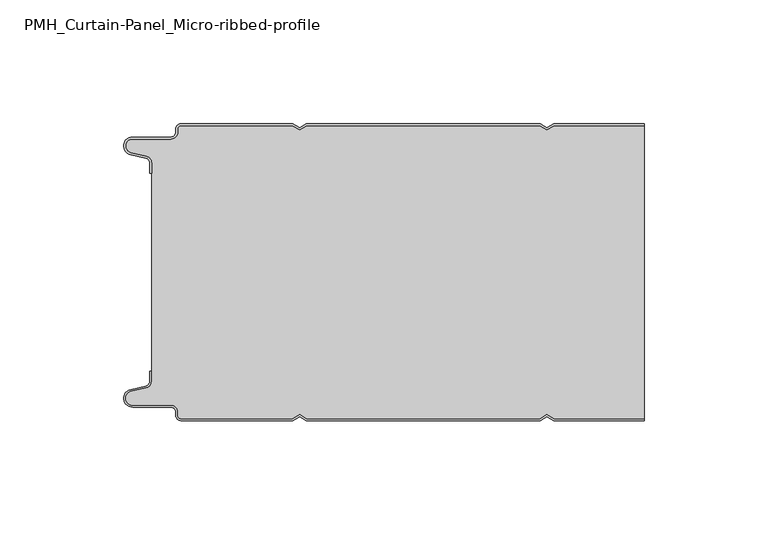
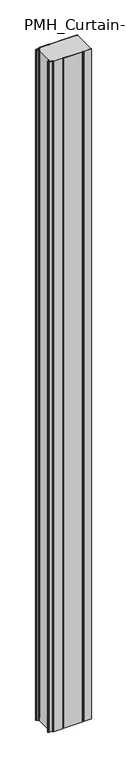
"""IFC4 building model written with IfcOpenShell, lengths in millimetres: plate geometry, PMH_Curtain-Panel_Micro-ribbed-profile : ACH_PMH_Stone-wool-Panel_120M."""

from ifc_helpers import new_model, si_unit, point, frame_2d, origin, origin_with_axes, place, context, project, spatial, polyline, circle_curve, trimmed, segment, composite_curve, outline, extrude, source, transform, mapped, element, save


def pmh_curtain_panel_micro_ribbed_profile_7fa3ddbd(model_context):
    return source(origin(), model_context, "Body", "SweptSolid", [
        extrude(outline(composite_curve([segment(trimmed(circle_curve(frame_2d((-102.0, -15.878557)), 2.0), [point((-100.0, -15.878557))], [point((-101.5500978, -13.9298169))], True, "CARTESIAN"), True, "CONTINUOUS"), segment(polyline([(-101.5500978, -13.9298169), (-107.7098239, -12.507732)]), True, "CONTINUOUS"), segment(trimmed(circle_curve(frame_2d((-106.9, -9.0)), 3.6), [point((-107.7098239, -12.507732))], [point((-106.9, -5.4))], False, "CARTESIAN"), True, "CONTINUOUS"), segment(polyline([(-106.9, -5.4), (-91.4, -5.4)]), True, "CONTINUOUS"), segment(trimmed(circle_curve(frame_2d((-91.4, -3.4)), 2.0), [point((-91.4, -5.4))], [point((-89.4, -3.4))], True, "CARTESIAN"), True, "CONTINUOUS"), segment(polyline([(-89.4, -3.4), (-89.4, -2.0)]), True, "CONTINUOUS"), segment(trimmed(circle_curve(frame_2d((-87.4, -2.0)), 2.0), [point((-89.4, -2.0))], [point((-87.4, 0.0))], False, "CARTESIAN"), True, "CONTINUOUS"), segment(polyline([(-87.4, 0.0), (-42.0999995, 0.0), (-39.4, -1.5588455), (-36.7000005, 0.0), (57.9000005, 0.0), (60.6, -1.5588455), (63.2999995, 0.0), (100.0, 0.0), (100.0, -0.8), (63.5143588, -0.8), (60.6, -2.482606), (57.6856412, -0.8), (-36.4856412, -0.8), (-39.4, -2.482606), (-42.3143588, -0.8), (-87.4, -0.8)]), True, "CONTINUOUS"), segment(trimmed(circle_curve(frame_2d((-87.4, -2.0)), 1.2), [point((-87.4, -0.8))], [point((-88.6, -2.0))], True, "CARTESIAN"), True, "CONTINUOUS"), segment(polyline([(-88.6, -2.0), (-88.6, -3.4)]), True, "CONTINUOUS"), segment(trimmed(circle_curve(frame_2d((-91.4, -3.4)), 2.8), [point((-88.6, -3.4))], [point((-91.4, -6.2))], False, "CARTESIAN"), True, "CONTINUOUS"), segment(polyline([(-91.4, -6.2), (-106.9, -6.2)]), True, "CONTINUOUS"), segment(trimmed(circle_curve(frame_2d((-106.9, -9.0)), 2.8), [point((-106.9, -6.2))], [point((-107.529863, -11.7282362))], True, "CARTESIAN"), True, "CONTINUOUS"), segment(polyline([(-107.529863, -11.7282362), (-101.370137, -13.150321)]), True, "CONTINUOUS"), segment(trimmed(circle_curve(frame_2d((-102.0, -15.878557)), 2.8), [point((-101.370137, -13.150321))], [point((-99.2, -15.878557))], False, "CARTESIAN"), True, "CONTINUOUS"), segment(polyline([(-99.2, -15.878557), (-99.2, -20.0), (-100.0, -20.0), (-100.0, -15.878557)]), True, "CONTINUOUS")], self_intersect=False)), origin_with_axes(), (0.0, 0.0, 1.0), 3500.0),
        extrude(outline(composite_curve([segment(polyline([(-99.2, -104.1214426), (-99.2, -15.8785573)]), True, "CONTINUOUS"), segment(trimmed(circle_curve(frame_2d((-102.0, -15.8785573)), 2.8), [point((-99.2, -15.8785573))], [point((-101.370137, -13.1503212))], True, "CARTESIAN"), True, "CONTINUOUS"), segment(polyline([(-101.370137, -13.1503212), (-107.5298631, -11.7282362)]), True, "CONTINUOUS"), segment(trimmed(circle_curve(frame_2d((-106.9, -9.0)), 2.8), [point((-107.5298631, -11.7282362))], [point((-106.9, -6.2))], False, "CARTESIAN"), True, "CONTINUOUS"), segment(polyline([(-106.9, -6.2), (-91.4000001, -6.2)]), True, "CONTINUOUS"), segment(trimmed(circle_curve(frame_2d((-91.4000001, -3.4)), 2.8), [point((-91.4000001, -6.2))], [point((-88.6000001, -3.4))], True, "CARTESIAN"), True, "CONTINUOUS"), segment(polyline([(-88.6000001, -3.4), (-88.6000001, -2.0)]), True, "CONTINUOUS"), segment(trimmed(circle_curve(frame_2d((-87.4000001, -2.0)), 1.2), [point((-88.6000001, -2.0))], [point((-87.4000001, -0.8))], False, "CARTESIAN"), True, "CONTINUOUS"), segment(polyline([(-87.4000001, -0.8), (-42.3143589, -0.8), (-39.4000001, -2.482606), (-36.4856412, -0.8), (57.6856411, -0.8), (60.5999999, -2.482606), (63.5143588, -0.8), (100.0, -0.8), (100.0, -119.2), (63.5143588, -119.2), (60.5999999, -117.517394), (57.6856411, -119.2), (-36.4856412, -119.2), (-39.4000001, -117.517394), (-42.3143589, -119.2), (-87.4000001, -119.2)]), True, "CONTINUOUS"), segment(trimmed(circle_curve(frame_2d((-87.4000001, -118.0)), 1.2), [point((-87.4000001, -119.2))], [point((-88.6000001, -118.0))], False, "CARTESIAN"), True, "CONTINUOUS"), segment(polyline([(-88.6000001, -118.0), (-88.6000001, -116.6)]), True, "CONTINUOUS"), segment(trimmed(circle_curve(frame_2d((-91.4000001, -116.6)), 2.8), [point((-88.6000001, -116.6))], [point((-91.4000001, -113.8))], True, "CARTESIAN"), True, "CONTINUOUS"), segment(polyline([(-91.4000001, -113.8), (-106.9, -113.8)]), True, "CONTINUOUS"), segment(trimmed(circle_curve(frame_2d((-106.9, -111.0)), 2.8), [point((-106.9, -113.8))], [point((-107.5298631, -108.2717638))], False, "CARTESIAN"), True, "CONTINUOUS"), segment(polyline([(-107.5298631, -108.2717638), (-101.370137, -106.8496788)]), True, "CONTINUOUS"), segment(trimmed(circle_curve(frame_2d((-102.0, -104.1214426)), 2.8), [point((-101.370137, -106.8496788))], [point((-99.2, -104.1214426))], True, "CARTESIAN"), True, "CONTINUOUS")], self_intersect=False)), origin_with_axes(), (0.0, 0.0, 1.0), 3500.0),
        extrude(outline(composite_curve([segment(polyline([(-100.0, -104.121443), (-100.0, -100.0), (-99.2, -100.0), (-99.2, -104.121443)]), True, "CONTINUOUS"), segment(trimmed(circle_curve(frame_2d((-102.0, -104.121443)), 2.8), [point((-99.2, -104.121443))], [point((-101.370137, -106.8496792))], False, "CARTESIAN"), True, "CONTINUOUS"), segment(polyline([(-101.370137, -106.8496792), (-107.529863, -108.271764)]), True, "CONTINUOUS"), segment(trimmed(circle_curve(frame_2d((-106.9, -111.0)), 2.8), [point((-107.529863, -108.271764))], [point((-106.9, -113.8))], True, "CARTESIAN"), True, "CONTINUOUS"), segment(polyline([(-106.9, -113.8), (-91.4, -113.8)]), True, "CONTINUOUS"), segment(trimmed(circle_curve(frame_2d((-91.4, -116.6)), 2.8), [point((-91.4, -113.8))], [point((-88.6, -116.6))], False, "CARTESIAN"), True, "CONTINUOUS"), segment(polyline([(-88.6, -116.6), (-88.6, -118.0)]), True, "CONTINUOUS"), segment(trimmed(circle_curve(frame_2d((-87.4, -118.0)), 1.2), [point((-88.6, -118.0))], [point((-87.4, -119.2))], True, "CARTESIAN"), True, "CONTINUOUS"), segment(polyline([(-87.4, -119.2), (-42.3143588, -119.2), (-39.4, -117.517394), (-36.4856412, -119.2), (57.6856412, -119.2), (60.6, -117.517394), (63.5143588, -119.2), (100.0, -119.2), (100.0, -120.0), (63.2999995, -120.0), (60.6, -118.4411545), (57.9000005, -120.0), (-36.7000005, -120.0), (-39.4, -118.4411545), (-42.0999995, -120.0), (-87.4, -120.0)]), True, "CONTINUOUS"), segment(trimmed(circle_curve(frame_2d((-87.4, -118.0)), 2.0), [point((-87.4, -120.0))], [point((-89.4, -118.0))], False, "CARTESIAN"), True, "CONTINUOUS"), segment(polyline([(-89.4, -118.0), (-89.4, -116.6)]), True, "CONTINUOUS"), segment(trimmed(circle_curve(frame_2d((-91.4, -116.6)), 2.0), [point((-89.4, -116.6))], [point((-91.4, -114.6))], True, "CARTESIAN"), True, "CONTINUOUS"), segment(polyline([(-91.4, -114.6), (-106.9, -114.6)]), True, "CONTINUOUS"), segment(trimmed(circle_curve(frame_2d((-106.9, -111.0)), 3.6), [point((-106.9, -114.6))], [point((-107.7098239, -107.4922678))], False, "CARTESIAN"), True, "CONTINUOUS"), segment(polyline([(-107.7098239, -107.4922678), (-101.5500979, -106.070183)]), True, "CONTINUOUS"), segment(trimmed(circle_curve(frame_2d((-102.0, -104.121443)), 2.0), [point((-101.5500979, -106.070183))], [point((-100.0, -104.121443))], True, "CARTESIAN"), True, "CONTINUOUS")], self_intersect=False)), origin_with_axes(), (0.0, 0.0, 1.0), 3500.0),
    ])


if __name__ == "__main__":
    model = new_model("IFC4")
    model_context = context("Model", 3, world=origin())
    ifc_project = project(units=[si_unit("LENGTHUNIT", "METRE", prefix="MILLI")], contexts=[model_context])
    site = spatial("IfcSite", under=ifc_project)
    building = spatial("IfcBuilding", under=site)
    placement = place(None, origin())
    pmh_curtain_panel_micro_ribbed_profile_shape = pmh_curtain_panel_micro_ribbed_profile_7fa3ddbd(model_context)
    element("IfcPlate", 1, ObjectType="PMH_Curtain-Panel_Micro-ribbed-profile : ACH_PMH_Stone-wool-Panel_120M", at=placement, inside=building, context=model_context, shape_type="MappedRepresentation", body=[
        mapped(pmh_curtain_panel_micro_ribbed_profile_shape, transform((0.0, 0.0, 0.0), x_axis=(1.0, 0.0, 0.0), y_axis=(0.0, 1.0, 0.0), z_axis=(0.0, 0.0, 1.0))),
    ])
    save(model, "model.ifc")
